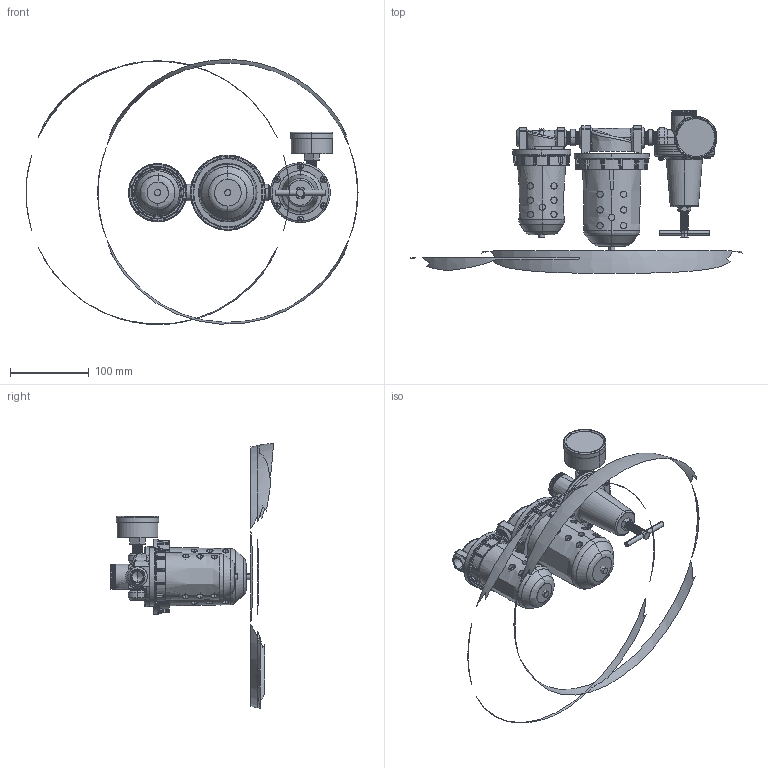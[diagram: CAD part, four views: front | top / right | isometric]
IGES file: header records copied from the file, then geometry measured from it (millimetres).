
Start section: SolidWorks IGES file using analytic representation for surfaces
Global section: file name: C:\Users\Toshiba\Desktop\C728##-03YB#.IGS; native system: SolidWorks 2014; preprocessor: SolidWorks 2014; author: Toshiba; date: 160216.113520; units: millimetre
Bounding box: 422.44 x 207.54 x 337.41 mm (x, y, z)
Surface area: 191402.8 mm2 (no closed solid volume)
Topology: 0 solids, 0 shells, 1627 faces, 23012 edges, 22981 vertices
Faces by surface type: revolution 824, bspline 803
